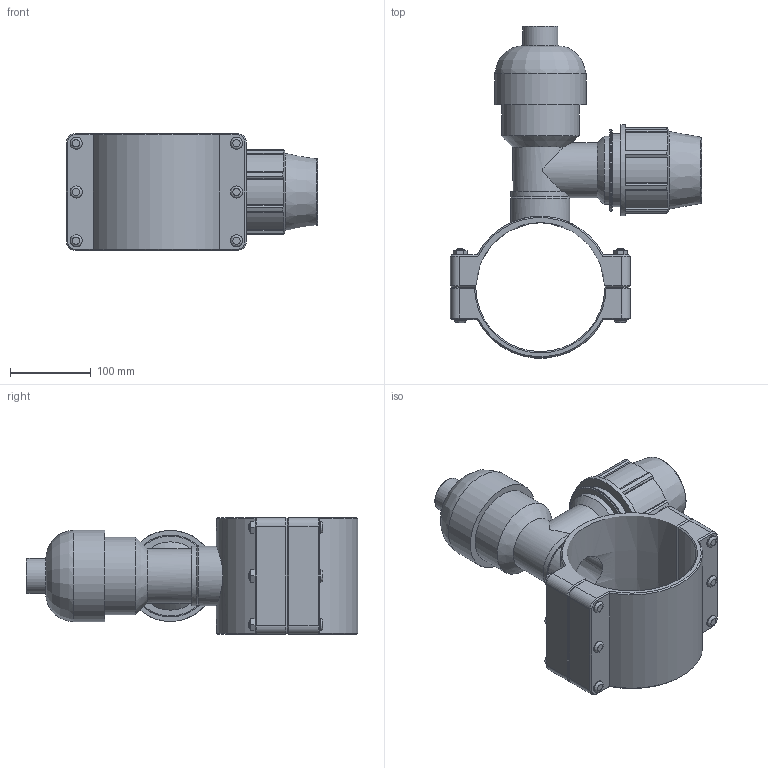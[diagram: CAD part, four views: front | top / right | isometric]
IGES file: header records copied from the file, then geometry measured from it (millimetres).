
Global section: file name: 186800160063.ipt; native system: Autodesk Inventor 2015; preprocessor: unknown; author: KIM; date: 20170618.094038; units: millimetre
Bounding box: 311.5 x 411.69 x 145 mm (x, y, z)
Volume: 2897192.4 mm3; surface area: 399574 mm2
Topology: 1 solids, 1 shells, 255 faces, 639 edges, 413 vertices
Faces by surface type: plane 154, cylinder 50, cone 31, revolution 20
Full cylindrical faces by diameter (mm): 10 x6, 15 x12, 43.598 x1, 67.8 x1, 73.653 x1, 84.75 x1, 90.4 x1, 96.315 x1, 101.7 x1, 113 x1, 113.312 x1
